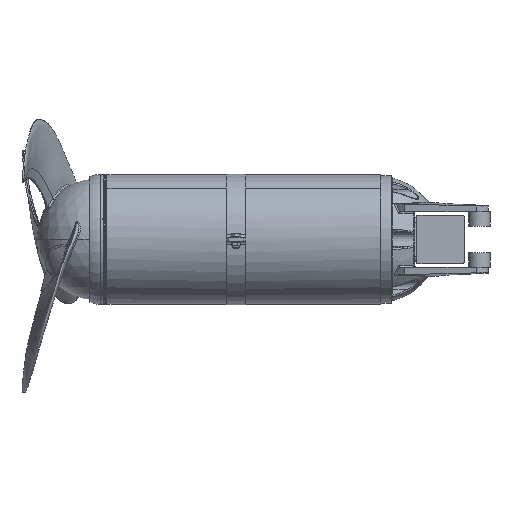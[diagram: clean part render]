
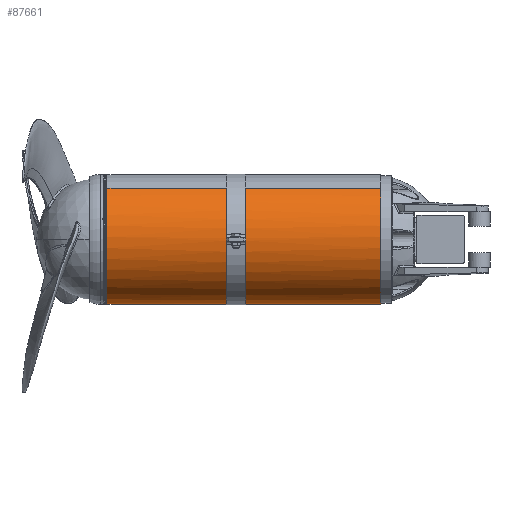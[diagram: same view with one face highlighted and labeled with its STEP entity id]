
A CAD part, front view. The second image highlights one B-rep face of the part: STEP entity #87661.
In plain terms, the highlighted cylindrical face has radius 134 mm (diameter 268 mm), a partial arc.
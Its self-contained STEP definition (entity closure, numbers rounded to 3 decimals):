
#4188 = CARTESIAN_POINT ( 'NONE',  ( 7.9, 0., 0. ) ) ;
#7554 = VERTEX_POINT ( 'NONE', #10907 ) ;
#10907 = CARTESIAN_POINT ( 'NONE',  ( 7.9, -82.096, 105.906 ) ) ;
#11208 = ORIENTED_EDGE ( 'NONE', *, *, #50834, .F. ) ;
#14197 = DIRECTION ( 'NONE',  ( -1., 0., 0. ) ) ;
#17496 = DIRECTION ( 'NONE',  ( 0., -0.613, 0.79 ) ) ;
#17691 = DIRECTION ( 'NONE',  ( -1., 0., 0. ) ) ;
#19443 = ORIENTED_EDGE ( 'NONE', *, *, #164397, .F. ) ;
#22136 = ORIENTED_EDGE ( 'NONE', *, *, #27293, .F. ) ;
#24420 = CARTESIAN_POINT ( 'NONE',  ( -558.2, 82.096, -105.906 ) ) ;
#27293 = EDGE_CURVE ( 'NONE', #116334, #40999, #39717, .T. ) ;
#27322 = AXIS2_PLACEMENT_3D ( 'NONE', #61423, #153767, #74692 ) ;
#28286 = CYLINDRICAL_SURFACE ( 'NONE', #62981, 134. ) ;
#29066 = ORIENTED_EDGE ( 'NONE', *, *, #83412, .T. ) ;
#29579 = AXIS2_PLACEMENT_3D ( 'NONE', #130908, #131492, #118755 ) ;
#30544 = ORIENTED_EDGE ( 'NONE', *, *, #164072, .T. ) ;
#31149 = CIRCLE ( 'NONE', #70046, 134. ) ;
#31481 = CARTESIAN_POINT ( 'NONE',  ( -616.446, -82.096, 105.906 ) ) ;
#35997 = VECTOR ( 'NONE', #88948, 1000. ) ;
#37990 = CIRCLE ( 'NONE', #27322, 134. ) ;
#39155 = AXIS2_PLACEMENT_3D ( 'NONE', #4188, #96561, #17496 ) ;
#39717 = CIRCLE ( 'NONE', #29579, 134. ) ;
#40664 = CIRCLE ( 'NONE', #118899, 134. ) ;
#40999 = VERTEX_POINT ( 'NONE', #124107 ) ;
#41209 = DIRECTION ( 'NONE',  ( -1., 0., 0. ) ) ;
#42507 = LINE ( 'NONE', #49121, #35997 ) ;
#46455 = CARTESIAN_POINT ( 'NONE',  ( -311.6, -133.971, 2.785 ) ) ;
#49121 = CARTESIAN_POINT ( 'NONE',  ( -616.446, 82.096, -105.906 ) ) ;
#50834 = EDGE_CURVE ( 'NONE', #40999, #55027, #57393, .T. ) ;
#51155 = CARTESIAN_POINT ( 'NONE',  ( -271.6, -133.971, 2.785 ) ) ;
#52102 = CIRCLE ( 'NONE', #39155, 134. ) ;
#53132 = EDGE_CURVE ( 'NONE', #63258, #55027, #40664, .T. ) ;
#54945 = DIRECTION ( 'NONE',  ( -1., 0., 0. ) ) ;
#55027 = VERTEX_POINT ( 'NONE', #112267 ) ;
#55371 = VERTEX_POINT ( 'NONE', #24420 ) ;
#56315 = EDGE_LOOP ( 'NONE', ( #80164, #165931, #30544, #101189, #167902, #29066, #162643, #19443, #154324, #104874, #11208, #22136 ) ) ;
#57393 = LINE ( 'NONE', #142485, #91296 ) ;
#59294 = EDGE_CURVE ( 'NONE', #133511, #116334, #123935, .T. ) ;
#60229 = CARTESIAN_POINT ( 'NONE',  ( -311.6, 0., 0. ) ) ;
#61423 = CARTESIAN_POINT ( 'NONE',  ( -271.6, 0., 0. ) ) ;
#62981 = AXIS2_PLACEMENT_3D ( 'NONE', #102306, #141620, #89653 ) ;
#63258 = VERTEX_POINT ( 'NONE', #168226 ) ;
#64580 = VECTOR ( 'NONE', #14197, 1000. ) ;
#66629 = VERTEX_POINT ( 'NONE', #113948 ) ;
#68710 = VECTOR ( 'NONE', #150906, 1000. ) ;
#70046 = AXIS2_PLACEMENT_3D ( 'NONE', #120318, #41209, #133643 ) ;
#70777 = EDGE_CURVE ( 'NONE', #66629, #102106, #118339, .T. ) ;
#73513 = DIRECTION ( 'NONE',  ( 0., 0., -1. ) ) ;
#74692 = DIRECTION ( 'NONE',  ( 0., 0., -1. ) ) ;
#79984 = CARTESIAN_POINT ( 'NONE',  ( -616.446, -82.096, 105.906 ) ) ;
#80164 = ORIENTED_EDGE ( 'NONE', *, *, #59294, .F. ) ;
#83412 = EDGE_CURVE ( 'NONE', #116362, #66629, #130766, .T. ) ;
#86859 = CARTESIAN_POINT ( 'NONE',  ( -271.6, -82.096, 105.906 ) ) ;
#87661 = ADVANCED_FACE ( 'NONE', ( #166646 ), #28286, .T. ) ;
#88948 = DIRECTION ( 'NONE',  ( -1., 0., 0. ) ) ;
#89653 = DIRECTION ( 'NONE',  ( 0., -0.613, 0.79 ) ) ;
#91296 = VECTOR ( 'NONE', #155721, 1000. ) ;
#92892 = LINE ( 'NONE', #137641, #68710 ) ;
#96561 = DIRECTION ( 'NONE',  ( -1., 0., 0. ) ) ;
#99463 = VERTEX_POINT ( 'NONE', #51155 ) ;
#101189 = ORIENTED_EDGE ( 'NONE', *, *, #133667, .F. ) ;
#102106 = VERTEX_POINT ( 'NONE', #113545 ) ;
#102306 = CARTESIAN_POINT ( 'NONE',  ( -616.446, 0., 0. ) ) ;
#104874 = ORIENTED_EDGE ( 'NONE', *, *, #53132, .T. ) ;
#109846 = EDGE_CURVE ( 'NONE', #133511, #7554, #52102, .T. ) ;
#110492 = CARTESIAN_POINT ( 'NONE',  ( 7.9, 82.096, -105.906 ) ) ;
#112267 = CARTESIAN_POINT ( 'NONE',  ( -311.6, -133.971, -2.785 ) ) ;
#113545 = CARTESIAN_POINT ( 'NONE',  ( -558.2, -82.096, 105.906 ) ) ;
#113948 = CARTESIAN_POINT ( 'NONE',  ( -311.6, -82.096, 105.906 ) ) ;
#115078 = VERTEX_POINT ( 'NONE', #86859 ) ;
#115823 = CARTESIAN_POINT ( 'NONE',  ( -616.446, 82.096, -105.906 ) ) ;
#116334 = VERTEX_POINT ( 'NONE', #138243 ) ;
#116362 = VERTEX_POINT ( 'NONE', #46455 ) ;
#118339 = LINE ( 'NONE', #79984, #64580 ) ;
#118755 = DIRECTION ( 'NONE',  ( 0., 0., -1. ) ) ;
#118899 = AXIS2_PLACEMENT_3D ( 'NONE', #60229, #152573, #73513 ) ;
#120318 = CARTESIAN_POINT ( 'NONE',  ( -558.2, 0., 0. ) ) ;
#123935 = LINE ( 'NONE', #115823, #133951 ) ;
#124107 = CARTESIAN_POINT ( 'NONE',  ( -271.6, -133.971, -2.785 ) ) ;
#129692 = DIRECTION ( 'NONE',  ( -1., 0., 0. ) ) ;
#130766 = CIRCLE ( 'NONE', #132948, 134. ) ;
#130908 = CARTESIAN_POINT ( 'NONE',  ( -271.6, 0., 0. ) ) ;
#131492 = DIRECTION ( 'NONE',  ( -1., 0., 0. ) ) ;
#132948 = AXIS2_PLACEMENT_3D ( 'NONE', #134033, #54945, #147287 ) ;
#133510 = EDGE_CURVE ( 'NONE', #116362, #99463, #92892, .T. ) ;
#133511 = VERTEX_POINT ( 'NONE', #110492 ) ;
#133643 = DIRECTION ( 'NONE',  ( 0., -0.613, 0.79 ) ) ;
#133667 = EDGE_CURVE ( 'NONE', #99463, #115078, #37990, .T. ) ;
#133951 = VECTOR ( 'NONE', #129692, 1000. ) ;
#134033 = CARTESIAN_POINT ( 'NONE',  ( -311.6, 0., 0. ) ) ;
#137641 = CARTESIAN_POINT ( 'NONE',  ( -291.6, -133.971, 2.785 ) ) ;
#138243 = CARTESIAN_POINT ( 'NONE',  ( -271.6, 82.096, -105.906 ) ) ;
#141620 = DIRECTION ( 'NONE',  ( -1., 0., 0. ) ) ;
#142485 = CARTESIAN_POINT ( 'NONE',  ( -291.6, -133.971, -2.785 ) ) ;
#142955 = EDGE_CURVE ( 'NONE', #63258, #55371, #42507, .T. ) ;
#143064 = VECTOR ( 'NONE', #17691, 1000. ) ;
#147287 = DIRECTION ( 'NONE',  ( 0., 0., -1. ) ) ;
#150906 = DIRECTION ( 'NONE',  ( 1., 0., 0. ) ) ;
#151315 = LINE ( 'NONE', #31481, #143064 ) ;
#152573 = DIRECTION ( 'NONE',  ( -1., 0., 0. ) ) ;
#153767 = DIRECTION ( 'NONE',  ( -1., 0., 0. ) ) ;
#154324 = ORIENTED_EDGE ( 'NONE', *, *, #142955, .F. ) ;
#155721 = DIRECTION ( 'NONE',  ( -1., 0., 0. ) ) ;
#162643 = ORIENTED_EDGE ( 'NONE', *, *, #70777, .T. ) ;
#164072 = EDGE_CURVE ( 'NONE', #7554, #115078, #151315, .T. ) ;
#164397 = EDGE_CURVE ( 'NONE', #55371, #102106, #31149, .T. ) ;
#165931 = ORIENTED_EDGE ( 'NONE', *, *, #109846, .T. ) ;
#166646 = FACE_OUTER_BOUND ( 'NONE', #56315, .T. ) ;
#167902 = ORIENTED_EDGE ( 'NONE', *, *, #133510, .F. ) ;
#168226 = CARTESIAN_POINT ( 'NONE',  ( -311.6, 82.096, -105.906 ) ) ;
